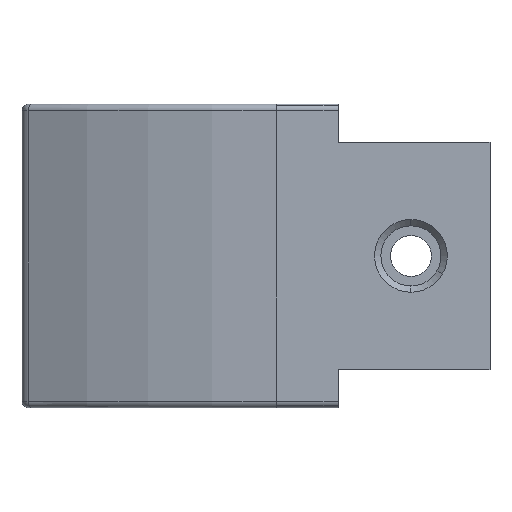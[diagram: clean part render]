
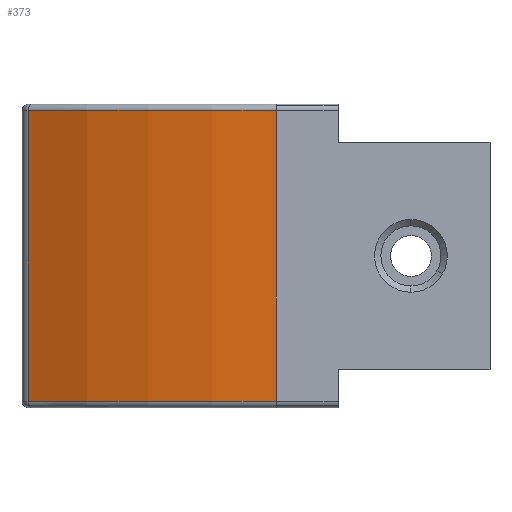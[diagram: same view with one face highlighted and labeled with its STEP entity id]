
A CAD part, top view. The second image highlights one B-rep face of the part: STEP entity #373.
In plain terms, the highlighted cylindrical face has radius 80 mm (diameter 160 mm), a partial arc.
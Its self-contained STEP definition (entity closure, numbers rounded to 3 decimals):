
#241=EDGE_CURVE('',#608,#609,#610,.T.);
#271=EDGE_CURVE('',#609,#625,#658,.T.);
#333=EDGE_CURVE('',#639,#608,#747,.T.);
#347=EDGE_CURVE('',#639,#625,#762,.T.);
#373=ADVANCED_FACE('',(#795),#796,.T.);
#608=VERTEX_POINT('',#1068);
#609=VERTEX_POINT('',#1069);
#610=LINE('',#1070,#1071);
#625=VERTEX_POINT('',#1091);
#639=VERTEX_POINT('',#1110);
#658=CIRCLE('',#1135,80.);
#747=CIRCLE('',#1255,80.);
#762=LINE('',#1280,#1281);
#795=FACE_OUTER_BOUND('',#1327,.T.);
#796=CYLINDRICAL_SURFACE('',#1328,80.);
#1068=CARTESIAN_POINT('',(148.739,119.181,-10.256));
#1069=CARTESIAN_POINT('',(148.739,165.181,-10.256));
#1070=CARTESIAN_POINT('',(148.739,118.181,-10.256));
#1071=VECTOR('',#1680,1.0);
#1091=CARTESIAN_POINT('',(187.928,165.181,0.0));
#1110=CARTESIAN_POINT('',(187.928,119.181,0.0));
#1135=AXIS2_PLACEMENT_3D('',#1736,#1737,#1738);
#1255=AXIS2_PLACEMENT_3D('',#1875,#1876,#1877);
#1280=CARTESIAN_POINT('',(187.928,118.181,0.0));
#1281=VECTOR('',#1890,1.0);
#1327=EDGE_LOOP('',(#1939,#1940,#1941,#1942));
#1328=AXIS2_PLACEMENT_3D('',#1943,#1944,#1945);
#1680=DIRECTION('',(0.0,1.0,0.));
#1736=CARTESIAN_POINT('',(187.928,165.181,-80.));
#1737=DIRECTION('',(0.0,1.0,0.));
#1738=DIRECTION('',(-0.253,0.,0.967));
#1875=CARTESIAN_POINT('',(187.928,119.181,-80.));
#1876=DIRECTION('',(0.0,-1.0,0.));
#1877=DIRECTION('',(-0.253,0.,0.967));
#1890=DIRECTION('',(0.0,1.0,0.));
#1939=ORIENTED_EDGE('',*,*,#333,.F.);
#1940=ORIENTED_EDGE('',*,*,#347,.T.);
#1941=ORIENTED_EDGE('',*,*,#271,.F.);
#1942=ORIENTED_EDGE('',*,*,#241,.F.);
#1943=CARTESIAN_POINT('',(187.928,118.181,-80.));
#1944=DIRECTION('',(0.0,1.0,0.));
#1945=DIRECTION('',(0.,0.,1.0));
